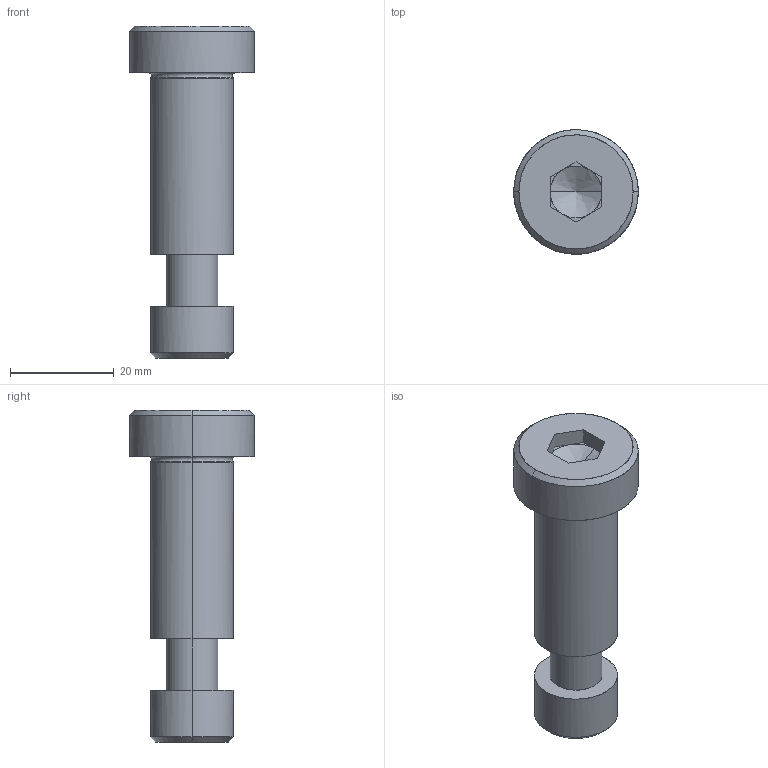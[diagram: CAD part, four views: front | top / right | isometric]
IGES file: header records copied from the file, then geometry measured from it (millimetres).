
Global section: file name: E:\UnigraphicsGraphicData\MISUMI_PRESS-PARTS\IGES\3d_sbtc16-35_05119_r00.igs; native system: NX V5.0; preprocessor: UGS NX IGES V5.0; author: MISUMI; date: 20110105.162446; units: millimetre
Bounding box: 24 x 24 x 64 mm (x, y, z)
Surface area: 6042.2 mm2 (no closed solid volume)
Topology: 0 solids, 0 shells, 52 faces, 286 edges, 282 vertices
Faces by surface type: bspline 52
